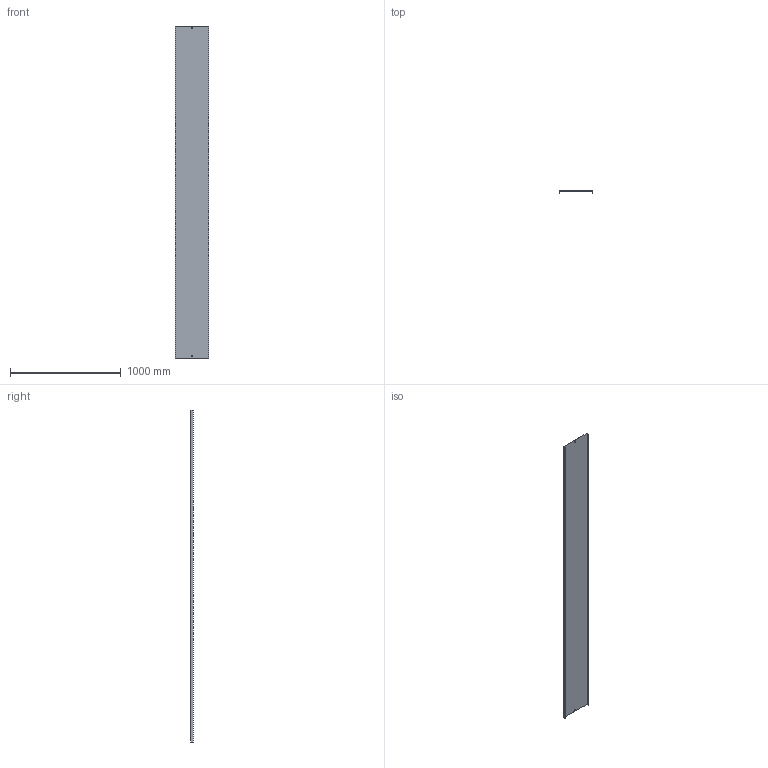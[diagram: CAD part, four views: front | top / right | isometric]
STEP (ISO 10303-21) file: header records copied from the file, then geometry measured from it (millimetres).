
FILE_DESCRIPTION (( 'STEP AP214' ), '1' );
FILE_NAME ('05N3R300.step', '2025-02-21T14:44:39', ( '' ), ( '' ), 'SwSTEP 2.0', 'SolidWorks 2023', '' );
FILE_SCHEMA (( 'AUTOMOTIVE_DESIGN' ));
Length unit declared in the file: millimetre
Products named in the file (1): 05N3R300
Bounding box: 303 x 20 x 3000 mm (x, y, z)
Volume: 1529824.5 mm3; surface area: 2049879 mm2
Topology: 1 solids, 1 shells, 18 faces, 48 edges, 32 vertices
Faces by surface type: plane 18
Entity records: 583 total; most frequent: CARTESIAN_POINT 99, ORIENTED_EDGE 96, DIRECTION 86, LINE 48, EDGE_CURVE 48, VECTOR 48, VERTEX_POINT 32, EDGE_LOOP 22
